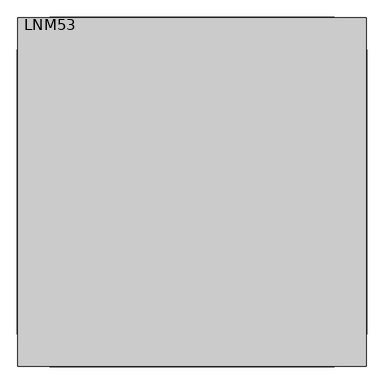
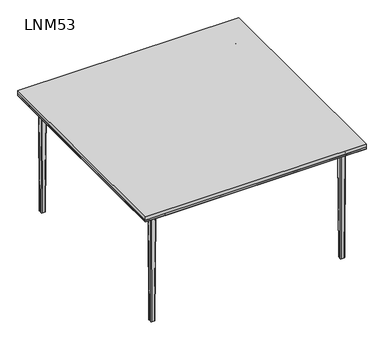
"""IFC4 building model written with IfcOpenShell, lengths in millimetres: furniture geometry, Contact Desks and Operative Twin Desks : LNM53."""

from ifc_helpers import new_model, si_unit, point, frame, origin, place, context, project, spatial, polyline, circle_curve, ellipse_curve, trimmed, outline, extrude, faceted_brep, source, transform, mapped, element, save
from ifc_brep_helpers import plane_surface, cylinder_surface, revolved_surface, extruded_surface, advanced_brep


def lnm53_39415d5a(model_context):
    return source(origin(), model_context, "Body", "SolidModel", [
        extrude(outline(polyline([(660.0, -540.0), (660.0, -660.0), (540.0, -660.0), (540.0, -540.0), (660.0, -540.0)])), frame((0.0, 0.0, 710.0), z_axis=(0.0, 0.0, 1.0), x_axis=(1.0, 0.0, 0.0)), (0.0, 0.0, 1.0), 10.0),
        extrude(outline(polyline([(660.0, 660.0), (660.0, 540.0), (540.0, 540.0), (540.0, 660.0), (660.0, 660.0)])), frame((0.0, 0.0, 710.0), z_axis=(0.0, 0.0, 1.0), x_axis=(1.0, 0.0, 0.0)), (0.0, 0.0, 1.0), 10.0),
        extrude(outline(polyline([(-540.0, 660.0), (-540.0, 540.0), (-660.0, 540.0), (-660.0, 660.0), (-540.0, 660.0)])), frame((0.0, 0.0, 710.0), z_axis=(0.0, 0.0, 1.0), x_axis=(1.0, 0.0, 0.0)), (0.0, 0.0, 1.0), 10.0),
        extrude(outline(polyline([(-660.0, 540.0), (-540.0, 540.0), (-540.0, -540.0), (-660.0, -540.0), (-660.0, 540.0)])), frame((0.0, 0.0, 710.0), z_axis=(0.0, 0.0, 1.0), x_axis=(1.0, 0.0, 0.0)), (0.0, 0.0, 1.0), 10.0),
        extrude(outline(polyline([(540.0, 540.0), (660.0, 540.0), (660.0, -540.0), (540.0, -540.0), (540.0, 540.0)])), frame((0.0, 0.0, 710.0), z_axis=(0.0, 0.0, 1.0), x_axis=(1.0, 0.0, 0.0)), (0.0, 0.0, 1.0), 10.0),
        extrude(outline(polyline([(540.0, -540.0), (540.0, -660.0), (-540.0, -660.0), (-540.0, -540.0), (540.0, -540.0)])), frame((0.0, 0.0, 710.0), z_axis=(0.0, 0.0, 1.0), x_axis=(1.0, 0.0, 0.0)), (0.0, 0.0, 1.0), 10.0),
        extrude(outline(polyline([(540.0, 660.0), (540.0, 540.0), (-540.0, 540.0), (-540.0, 660.0), (540.0, 660.0)])), frame((0.0, 0.0, 710.0), z_axis=(0.0, 0.0, 1.0), x_axis=(1.0, 0.0, 0.0)), (0.0, 0.0, 1.0), 10.0),
        extrude(outline(polyline([(710.0, 540.0), (675.0, 540.0), (675.0, 588.7129935), (710.0, 661.7129935), (710.0, 540.0)])), frame((0.0, -540.0, 0.0), z_axis=(0.0, 1.0, 0.0), x_axis=(0.0, 0.0, 1.0)), (0.0, 0.0, 1.0), 1080.0),
        extrude(outline(polyline([(710.0, -540.0), (710.0, -661.7129935), (675.0, -588.7129935), (675.0, -540.0), (710.0, -540.0)])), frame((0.0, -540.0, 0.0), z_axis=(0.0, 1.0, 0.0), x_axis=(0.0, 0.0, 1.0)), (0.0, 0.0, 1.0), 1080.0),
        extrude(outline(polyline([(540.0, 710.0), (661.7129935, 710.0), (588.7129935, 675.0), (540.0, 675.0), (540.0, 710.0)])), frame((-540.0, 0.0, 0.0), z_axis=(1.0, 0.0, 0.0), x_axis=(0.0, 1.0, 0.0)), (0.0, 0.0, 1.0), 1080.0),
        extrude(outline(polyline([(-540.0, 710.0), (-540.0, 675.0), (-588.7129935, 675.0), (-661.7129935, 710.0), (-540.0, 710.0)])), frame((-540.0, 0.0, 0.0), z_axis=(1.0, 0.0, 0.0), x_axis=(0.0, 1.0, 0.0)), (0.0, 0.0, 1.0), 1080.0),
        faceted_brep([(-540.0, 540.0, 710.0), (-540.0, 660.0, 710.0), (-660.0, 660.0, 710.0), (-660.0, 540.0, 710.0), (-540.0, 540.0, 675.0), (-587.0, 540.0, 675.0), (-587.0, 587.0, 675.0), (-540.0, 587.0, 675.0)], [[[0, 1, 2, 3]], [[4, 5, 6, 7]], [[1, 0, 4, 7]], [[0, 3, 5, 4]], [[6, 2, 1, 7]], [[2, 6, 5, 3]]]),
        advanced_brep(
        [(-547.0, 555.0, 675.0), (-547.0, 579.0, 675.0), (-555.0, 587.0, 675.0), (-579.0, 587.0, 675.0), (-587.0, 579.0, 675.0), (-587.0, 555.0, 675.0), (-579.0, 547.0, 675.0), (-555.0, 547.0, 675.0), (-579.0, 552.0, 665.0), (-582.0, 555.0, 665.0), (-582.0, 579.0, 665.0), (-579.0, 582.0, 665.0), (-555.0, 582.0, 665.0), (-552.0, 579.0, 665.0), (-552.0, 555.0, 665.0), (-555.0, 552.0, 665.0), (-547.0, 555.0, 672.0), (-547.0, 579.0, 672.0), (-555.0, 587.0, 672.0), (-579.0, 587.0, 672.0), (-587.0, 579.0, 672.0), (-587.0, 555.0, 672.0), (-579.0, 547.0, 672.0), (-555.0, 547.0, 672.0)],
        [
            (0, 1),
            (1, 2, circle_curve(frame((-555.0, 579.0, 675.0), z_axis=(0.0, 0.0, 1.0), x_axis=(0.0, -1.0000000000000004, 0.0)), 8.0)),
            (2, 3),
            (3, 4, circle_curve(frame((-579.0, 579.0, 675.0), z_axis=(0.0, 0.0, 1.0), x_axis=(0.0, -1.0000000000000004, 0.0)), 8.0)),
            (4, 5),
            (5, 6, circle_curve(frame((-579.0, 555.0, 675.0), z_axis=(0.0, 0.0, 1.0), x_axis=(0.0, -1.0000000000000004, 0.0)), 8.0)),
            (6, 7),
            (7, 0, circle_curve(frame((-555.0, 555.0, 675.0), z_axis=(0.0, 0.0, 1.0), x_axis=(0.0, -1.0000000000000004, 0.0)), 8.0)),
            (8, 9, circle_curve(frame((-579.0, 555.0, 665.0), z_axis=(0.0, 0.0, -1.0), x_axis=(0.0, -1.0000000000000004, 0.0)), 3.0)),
            (9, 10),
            (10, 11, circle_curve(frame((-579.0, 579.0, 665.0), z_axis=(0.0, 0.0, -1.0), x_axis=(-1.0000000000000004, 0.0, 0.0)), 3.0)),
            (11, 12),
            (12, 13, circle_curve(frame((-555.0, 579.0, 665.0), z_axis=(0.0, 0.0, -1.0), x_axis=(0.0, 1.0000000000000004, 0.0)), 3.0)),
            (13, 14),
            (14, 15, circle_curve(frame((-555.0, 555.0, 665.0), z_axis=(0.0, 0.0, -1.0), x_axis=(1.0000000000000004, 0.0, 0.0)), 3.0)),
            (15, 8),
            (0, 16),
            (16, 17),
            (17, 1),
            (17, 18, circle_curve(frame((-555.0, 579.0, 672.0), z_axis=(0.0, 0.0, 1.0), x_axis=(0.0, -1.0000000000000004, 0.0)), 8.0)),
            (18, 2),
            (18, 19),
            (19, 3),
            (19, 20, circle_curve(frame((-579.0, 579.0, 672.0), z_axis=(0.0, 0.0, 1.0), x_axis=(0.0, -1.0000000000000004, 0.0)), 8.0)),
            (20, 4),
            (20, 21),
            (21, 5),
            (21, 22, circle_curve(frame((-579.0, 555.0, 672.0), z_axis=(0.0, 0.0, 1.0), x_axis=(0.0, -1.0000000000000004, 0.0)), 8.0)),
            (22, 6),
            (22, 23),
            (23, 7),
            (23, 16, circle_curve(frame((-555.0, 555.0, 672.0), z_axis=(0.0, 0.0, 1.0), x_axis=(0.0, -1.0000000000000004, 0.0)), 8.0)),
            (21, 9, circle_curve(frame((-590.9600528, 555.0, 663.8856766), z_axis=(0.0, 1.0000000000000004, 0.0), x_axis=(-1.0000000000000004, 0.0, 0.0)), 9.0290787)),
            (8, 22, circle_curve(frame((-579.0, 543.0399472, 663.8856766), z_axis=(1.0000000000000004, 0.0, 0.0), x_axis=(0.0, -1.0000000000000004, 0.0)), 9.0290787)),
            (20, 10, circle_curve(frame((-590.9600528, 579.0, 663.8856766), z_axis=(0.0, 1.0, 0.0), x_axis=(-1.0000000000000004, 0.0, 0.0)), 9.0290787)),
            (19, 11, circle_curve(frame((-579.0, 590.9600528, 663.8856766), z_axis=(1.0000000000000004, 0.0, 0.0), x_axis=(0.0, 1.0000000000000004, 0.0)), 9.0290787)),
            (18, 12, circle_curve(frame((-555.0, 590.9600528, 663.8856766), z_axis=(1.0, 0.0, 0.0), x_axis=(0.0, 1.0000000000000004, 0.0)), 9.0290787)),
            (17, 13, circle_curve(frame((-543.0399472, 579.0, 663.8856766), z_axis=(0.0, -1.0000000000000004, 0.0), x_axis=(1.0000000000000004, 0.0, 0.0)), 9.0290787)),
            (16, 14, circle_curve(frame((-543.0399472, 555.0, 663.8856766), z_axis=(0.0, -1.0, 0.0), x_axis=(1.0000000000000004, 0.0, 0.0)), 9.0290787)),
            (23, 15, circle_curve(frame((-555.0, 543.0399472, 663.8856766), z_axis=(-1.0000000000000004, 0.0, 0.0), x_axis=(0.0, -1.0000000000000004, 0.0)), 9.0290787)),
        ],
        [
            plane_surface(frame((-547.0, 1240.663284, 675.0), z_axis=(0.0, 0.0, 1.0), x_axis=(0.0, 1.0, 0.0))),
            plane_surface(frame((-547.0, 1240.663284, 665.0), z_axis=(0.0, 0.0, -1.0), x_axis=(0.0, -1.0, 0.0))),
            plane_surface(frame((-547.0, 555.0, 675.0), z_axis=(1.0, 0.0, 0.0), x_axis=(0.0, 0.0, -1.0))),
            cylinder_surface(frame((-555.0, 579.0, 665.0), z_axis=(0.0, 0.0, 1.0), x_axis=(0.0, -1.0000000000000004, 0.0)), 8.0),
            plane_surface(frame((-555.0, 587.0, 675.0), z_axis=(0.0, 1.0, 0.0), x_axis=(0.0, 0.0, -1.0))),
            cylinder_surface(frame((-579.0, 579.0, 665.0), z_axis=(0.0, 0.0, 1.0), x_axis=(0.0, -1.0000000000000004, 0.0)), 8.0),
            plane_surface(frame((-587.0, 579.0, 675.0), z_axis=(-1.0, 0.0, 0.0), x_axis=(0.0, 0.0, -1.0))),
            cylinder_surface(frame((-579.0, 555.0, 665.0), z_axis=(0.0, 0.0, 1.0), x_axis=(0.0, -1.0000000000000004, 0.0)), 8.0),
            plane_surface(frame((-579.0, 547.0, 675.0), z_axis=(0.0, -1.0, 0.0), x_axis=(0.0, 0.0, -1.0))),
            cylinder_surface(frame((-555.0, 555.0, 665.0), z_axis=(0.0, 0.0, 1.0), x_axis=(0.0, -1.0000000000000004, 0.0)), 8.0),
            revolved_surface(trimmed(ellipse_curve(frame((-579.0, 543.0399472, 663.8856766), z_axis=(-1.0000000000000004, 0.0, 0.0), x_axis=(0.0, -1.0000000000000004, 0.0)), 9.0290787, 9.0290787), [point((-579.0, 547.0, 672.0))], [point((-579.0, 552.0, 665.0))], True, "CARTESIAN"), (-579.0, 555.0, 0.0), (0.0, 0.0, -1.0)),
            revolved_surface(polyline([(-599.9891315, 555.0, 663.8856766), (-599.9891315, 579.0, 663.8856766)]), (-590.9600528, 555.0, 663.8856766), (0.0, -1.0000000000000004, 0.0)),
            revolved_surface(trimmed(ellipse_curve(frame((-590.9600528, 579.0, 663.8856766), z_axis=(0.0, 1.0000000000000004, 0.0), x_axis=(-1.0000000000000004, 0.0, 0.0)), 9.0290787, 9.0290787), [point((-587.0, 579.0, 672.0))], [point((-582.0, 579.0, 665.0))], True, "CARTESIAN"), (-579.0, 579.0, 0.0), (0.0, 0.0, -1.0)),
            revolved_surface(polyline([(-579.0, 599.9891315, 663.8856766), (-555.0, 599.9891315, 663.8856766)]), (-579.0, 590.9600528, 663.8856766), (-1.0000000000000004, 0.0, 0.0)),
            revolved_surface(trimmed(ellipse_curve(frame((-555.0, 590.9600528, 663.8856766), z_axis=(1.0000000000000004, 0.0, 0.0), x_axis=(0.0, 1.0000000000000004, 0.0)), 9.0290787, 9.0290787), [point((-555.0, 587.0, 672.0))], [point((-555.0, 582.0, 665.0))], True, "CARTESIAN"), (-555.0, 579.0, 0.0), (0.0, 0.0, -1.0)),
            revolved_surface(polyline([(-534.0108685, 579.0, 663.8856766), (-534.0108685, 555.0, 663.8856766)]), (-543.0399472, 579.0, 663.8856766), (0.0, 1.0000000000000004, 0.0)),
            revolved_surface(trimmed(ellipse_curve(frame((-543.0399472, 555.0, 663.8856766), z_axis=(0.0, -1.0000000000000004, 0.0), x_axis=(1.0000000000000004, 0.0, 0.0)), 9.0290787, 9.0290787), [point((-547.0, 555.0, 672.0))], [point((-552.0, 555.0, 665.0))], True, "CARTESIAN"), (-555.0, 555.0, 0.0), (0.0, 0.0, -1.0)),
            revolved_surface(polyline([(-555.0, 534.0108685, 663.8856766), (-579.0, 534.0108685, 663.8856766)]), (-555.0, 543.0399472, 663.8856766), (1.0000000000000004, 0.0, 0.0)),
        ],
        [
            (0, [[1, 2, 3, 4, 5, 6, 7, 8]]),
            (1, [[9, 10, 11, 12, 13, 14, 15, 16]]),
            (2, [[-1, 17, 18, 19]]),
            (3, [[-2, -19, 20, 21]]),
            (4, [[-3, -21, 22, 23]]),
            (5, [[-4, -23, 24, 25]]),
            (6, [[-5, -25, 26, 27]]),
            (7, [[-6, -27, 28, 29]]),
            (8, [[-7, -29, 30, 31]]),
            (9, [[-8, -31, 32, -17]]),
            (10, [[33, -9, 34, -28]]),
            (11, [[-33, -26, 35, -10]]),
            (12, [[-35, -24, 36, -11]]),
            (13, [[-36, -22, 37, -12]]),
            (14, [[-37, -20, 38, -13]]),
            (15, [[-38, -18, 39, -14]]),
            (16, [[-39, -32, 40, -15]]),
            (17, [[-34, -16, -40, -30]]),
        ],
    ),
        advanced_brep(
        [(-579.0, 582.0, 665.0), (-582.0, 579.0, 665.0), (-582.0, 555.0, 665.0), (-579.0, 552.0, 665.0), (-555.0, 552.0, 665.0), (-552.0, 555.0, 665.0), (-552.0, 579.0, 665.0), (-555.0, 582.0, 665.0), (-576.0, 579.0, 0.0), (-558.0, 579.0, 0.0), (-555.0, 576.0, 0.0), (-555.0, 558.0, 0.0), (-558.0, 555.0, 0.0), (-576.0, 555.0, 0.0), (-579.0, 558.0, 0.0), (-579.0, 576.0, 0.0)],
        [
            (0, 1, circle_curve(frame((-579.0, 579.0, 665.0), z_axis=(0.0, 0.0, 1.0), x_axis=(0.0, -1.0, 0.0)), 3.0)),
            (1, 2),
            (2, 3, circle_curve(frame((-579.0, 555.0, 665.0), z_axis=(0.0, 0.0, 1.0), x_axis=(0.0, -1.0, 0.0)), 3.0)),
            (3, 4),
            (4, 5, circle_curve(frame((-555.0, 555.0, 665.0), z_axis=(0.0, 0.0, 1.0), x_axis=(0.0, -1.0, 0.0)), 3.0)),
            (5, 6),
            (6, 7, circle_curve(frame((-555.0, 579.0, 665.0), z_axis=(0.0, 0.0, 1.0), x_axis=(0.0, -1.0, 0.0)), 3.0)),
            (7, 0),
            (8, 9),
            (9, 10, circle_curve(frame((-558.0, 576.0, 0.0), z_axis=(0.0, 0.0, -1.0), x_axis=(0.0, -1.0, 0.0)), 3.0)),
            (10, 11),
            (11, 12, circle_curve(frame((-558.0, 558.0, 0.0), z_axis=(0.0, 0.0, -1.0), x_axis=(0.0, -1.0, 0.0)), 3.0)),
            (12, 13),
            (13, 14, circle_curve(frame((-576.0, 558.0, 0.0), z_axis=(0.0, 0.0, -1.0), x_axis=(0.0, -1.0, 0.0)), 3.0)),
            (14, 15),
            (15, 8, circle_curve(frame((-576.0, 576.0, 0.0), z_axis=(0.0, 0.0, -1.0), x_axis=(0.0, -1.0, 0.0)), 3.0)),
            (15, 1),
            (0, 8),
            (14, 2),
            (13, 3),
            (12, 4),
            (11, 5),
            (10, 6),
            (9, 7),
        ],
        [
            plane_surface(frame((-567.0, 567.0, 665.0), z_axis=(0.0, 0.0, 1.0), x_axis=(0.0, 1.0, 0.0))),
            plane_surface(frame((-567.0, 567.0, 0.0), z_axis=(0.0, 0.0, -1.0), x_axis=(0.0, 1.0, 0.0))),
            extruded_surface(trimmed(circle_curve(frame((-576.0, 576.0, 0.0), z_axis=(0.0, 0.0, 1.0), x_axis=(0.0, -1.0, 0.0)), 3.0), [point((-576.0, 579.0, 0.0))], [point((-579.0, 576.0, 0.0))], True, "CARTESIAN"), (-3.0, 3.0, 665.0), 665.0135336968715),
            plane_surface(frame((-579.0, 567.0, 0.0), z_axis=(-0.9999898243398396, 0.0, -0.004511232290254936), x_axis=(0.0, -1.0, 0.0))),
            extruded_surface(trimmed(circle_curve(frame((-576.0, 558.0, 0.0), z_axis=(0.0, 0.0, 1.0), x_axis=(0.0, -1.0, 0.0)), 3.0), [point((-579.0, 558.0, 0.0))], [point((-576.0, 555.0, 0.0))], True, "CARTESIAN"), (-3.0, -3.0, 665.0), 665.0135336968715),
            plane_surface(frame((-567.0, 555.0, 0.0), z_axis=(0.0, -0.9999898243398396, -0.004511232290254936), x_axis=(1.0, 0.0, 0.0))),
            extruded_surface(trimmed(circle_curve(frame((-558.0, 558.0, 0.0), z_axis=(0.0, 0.0, 1.0), x_axis=(0.0, -1.0, 0.0)), 3.0), [point((-558.0, 555.0, 0.0))], [point((-555.0, 558.0, 0.0))], True, "CARTESIAN"), (3.0, -3.0, 665.0), 665.0135336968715),
            plane_surface(frame((-555.0, 567.0, 0.0), z_axis=(0.9999898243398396, 0.0, -0.004511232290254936), x_axis=(0.0, 1.0, 0.0))),
            extruded_surface(trimmed(circle_curve(frame((-558.0, 576.0, 0.0), z_axis=(0.0, 0.0, 1.0), x_axis=(0.0, -1.0, 0.0)), 3.0), [point((-555.0, 576.0, 0.0))], [point((-558.0, 579.0, 0.0))], True, "CARTESIAN"), (3.0, 3.0, 665.0), 665.0135336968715),
            plane_surface(frame((-567.0, 579.0, 0.0), z_axis=(0.0, 0.9999898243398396, -0.004511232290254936), x_axis=(-1.0, 0.0, 0.0))),
        ],
        [
            (0, [[1, 2, 3, 4, 5, 6, 7, 8]]),
            (1, [[9, 10, 11, 12, 13, 14, 15, 16]]),
            (2, [[-16, 17, -1, 18]]),
            (3, [[-15, 19, -2, -17]]),
            (4, [[-14, 20, -3, -19]]),
            (5, [[-13, 21, -4, -20]]),
            (6, [[-12, 22, -5, -21]]),
            (7, [[-11, 23, -6, -22]]),
            (8, [[-10, 24, -7, -23]]),
            (9, [[-9, -18, -8, -24]]),
        ],
    ),
        faceted_brep([(540.0, -540.0, 710.0), (540.0, -660.0, 710.0), (660.0, -660.0, 710.0), (660.0, -540.0, 710.0), (540.0, -540.0, 675.0), (587.0, -540.0, 675.0), (587.0, -587.0, 675.0), (540.0, -587.0, 675.0)], [[[0, 1, 2, 3]], [[4, 5, 6, 7]], [[1, 0, 4, 7]], [[0, 3, 5, 4]], [[6, 2, 1, 7]], [[2, 6, 5, 3]]]),
        advanced_brep(
        [(547.0, -555.0, 675.0), (547.0, -579.0, 675.0), (555.0, -587.0, 675.0), (579.0, -587.0, 675.0), (587.0, -579.0, 675.0), (587.0, -555.0, 675.0), (579.0, -547.0, 675.0), (555.0, -547.0, 675.0), (579.0, -552.0, 665.0), (582.0, -555.0, 665.0), (582.0, -579.0, 665.0), (579.0, -582.0, 665.0), (555.0, -582.0, 665.0), (552.0, -579.0, 665.0), (552.0, -555.0, 665.0), (555.0, -552.0, 665.0), (547.0, -555.0, 672.0), (547.0, -579.0, 672.0), (555.0, -587.0, 672.0), (579.0, -587.0, 672.0), (587.0, -579.0, 672.0), (587.0, -555.0, 672.0), (579.0, -547.0, 672.0), (555.0, -547.0, 672.0)],
        [
            (0, 1),
            (1, 2, circle_curve(frame((555.0, -579.0, 675.0), z_axis=(0.0, 0.0, 1.0), x_axis=(0.0, 1.0000000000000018, 0.0)), 8.0)),
            (2, 3),
            (3, 4, circle_curve(frame((579.0, -579.0, 675.0), z_axis=(0.0, 0.0, 1.0), x_axis=(0.0, 1.0000000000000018, 0.0)), 8.0)),
            (4, 5),
            (5, 6, circle_curve(frame((579.0, -555.0, 675.0), z_axis=(0.0, 0.0, 1.0), x_axis=(0.0, 1.0000000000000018, 0.0)), 8.0)),
            (6, 7),
            (7, 0, circle_curve(frame((555.0, -555.0, 675.0), z_axis=(0.0, 0.0, 1.0), x_axis=(0.0, 1.0000000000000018, 0.0)), 8.0)),
            (8, 9, circle_curve(frame((579.0, -555.0, 665.0), z_axis=(0.0, 0.0, -1.0), x_axis=(0.0, 1.0000000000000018, 0.0)), 3.0)),
            (9, 10),
            (10, 11, circle_curve(frame((579.0, -579.0, 665.0), z_axis=(0.0, 0.0, -1.0), x_axis=(1.0000000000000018, 0.0, 0.0)), 3.0)),
            (11, 12),
            (12, 13, circle_curve(frame((555.0, -579.0, 665.0), z_axis=(0.0, 0.0, -1.0), x_axis=(0.0, -1.0000000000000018, 0.0)), 3.0)),
            (13, 14),
            (14, 15, circle_curve(frame((555.0, -555.0, 665.0), z_axis=(0.0, 0.0, -1.0), x_axis=(-1.0000000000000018, 0.0, 0.0)), 3.0)),
            (15, 8),
            (0, 16),
            (16, 17),
            (17, 1),
            (17, 18, circle_curve(frame((555.0, -579.0, 672.0), z_axis=(0.0, 0.0, 1.0), x_axis=(0.0, 1.0000000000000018, 0.0)), 8.0)),
            (18, 2),
            (18, 19),
            (19, 3),
            (19, 20, circle_curve(frame((579.0, -579.0, 672.0), z_axis=(0.0, 0.0, 1.0), x_axis=(0.0, 1.0000000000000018, 0.0)), 8.0)),
            (20, 4),
            (20, 21),
            (21, 5),
            (21, 22, circle_curve(frame((579.0, -555.0, 672.0), z_axis=(0.0, 0.0, 1.0), x_axis=(0.0, 1.0000000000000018, 0.0)), 8.0)),
            (22, 6),
            (22, 23),
            (23, 7),
            (23, 16, circle_curve(frame((555.0, -555.0, 672.0), z_axis=(0.0, 0.0, 1.0), x_axis=(0.0, 1.0000000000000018, 0.0)), 8.0)),
            (21, 9, circle_curve(frame((590.9600528, -555.0, 663.8856766), z_axis=(0.0, -1.0000000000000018, 0.0), x_axis=(1.0000000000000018, 0.0, 0.0)), 9.0290787)),
            (8, 22, circle_curve(frame((579.0, -543.0399472, 663.8856766), z_axis=(-1.0000000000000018, 0.0, 0.0), x_axis=(0.0, 1.0000000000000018, 0.0)), 9.0290787)),
            (20, 10, circle_curve(frame((590.9600528, -579.0, 663.8856766), z_axis=(0.0, -1.0, 0.0), x_axis=(1.0000000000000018, 0.0, 0.0)), 9.0290787)),
            (19, 11, circle_curve(frame((579.0, -590.9600528, 663.8856766), z_axis=(-1.0000000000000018, 0.0, 0.0), x_axis=(0.0, -1.0000000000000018, 0.0)), 9.0290787)),
            (18, 12, circle_curve(frame((555.0, -590.9600528, 663.8856766), z_axis=(-1.0, 0.0, 0.0), x_axis=(0.0, -1.0000000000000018, 0.0)), 9.0290787)),
            (17, 13, circle_curve(frame((543.0399472, -579.0, 663.8856766), z_axis=(0.0, 1.0000000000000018, 0.0), x_axis=(-1.0000000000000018, 0.0, 0.0)), 9.0290787)),
            (16, 14, circle_curve(frame((543.0399472, -555.0, 663.8856766), z_axis=(0.0, 1.0, 0.0), x_axis=(-1.0000000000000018, 0.0, 0.0)), 9.0290787)),
            (23, 15, circle_curve(frame((555.0, -543.0399472, 663.8856766), z_axis=(1.0000000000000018, 0.0, 0.0), x_axis=(0.0, 1.0000000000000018, 0.0)), 9.0290787)),
        ],
        [
            plane_surface(frame((547.0, -1240.663284, 675.0), z_axis=(0.0, 0.0, 1.0), x_axis=(0.0, -1.0, 0.0))),
            plane_surface(frame((547.0, -1240.663284, 665.0), z_axis=(0.0, 0.0, -1.0), x_axis=(0.0, 1.0, 0.0))),
            plane_surface(frame((547.0, -555.0, 675.0), z_axis=(-1.0, 0.0, 0.0), x_axis=(0.0, 0.0, -1.0))),
            cylinder_surface(frame((555.0, -579.0, 665.0), z_axis=(0.0, 0.0, 1.0), x_axis=(0.0, 1.0000000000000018, 0.0)), 8.0),
            plane_surface(frame((555.0, -587.0, 675.0), z_axis=(0.0, -1.0, 0.0), x_axis=(0.0, 0.0, -1.0))),
            cylinder_surface(frame((579.0, -579.0, 665.0), z_axis=(0.0, 0.0, 1.0), x_axis=(0.0, 1.0000000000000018, 0.0)), 8.0),
            plane_surface(frame((587.0, -579.0, 675.0), z_axis=(1.0, 0.0, 0.0), x_axis=(0.0, 0.0, -1.0))),
            cylinder_surface(frame((579.0, -555.0, 665.0), z_axis=(0.0, 0.0, 1.0), x_axis=(0.0, 1.0000000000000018, 0.0)), 8.0),
            plane_surface(frame((579.0, -547.0, 675.0), z_axis=(0.0, 1.0, 0.0), x_axis=(0.0, 0.0, -1.0))),
            cylinder_surface(frame((555.0, -555.0, 665.0), z_axis=(0.0, 0.0, 1.0), x_axis=(0.0, 1.0000000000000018, 0.0)), 8.0),
            revolved_surface(trimmed(ellipse_curve(frame((579.0, -543.0399472, 663.8856766), z_axis=(1.0000000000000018, 0.0, 0.0), x_axis=(0.0, 1.0000000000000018, 0.0)), 9.0290787, 9.0290787), [point((579.0, -547.0, 672.0))], [point((579.0, -552.0, 665.0))], True, "CARTESIAN"), (579.0, -555.0, 0.0), (0.0, 0.0, -1.0)),
            revolved_surface(polyline([(599.9891315, -555.0, 663.8856766), (599.9891315, -579.0000000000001, 663.8856766)]), (590.9600528, -555.0, 663.8856766), (0.0, 1.0000000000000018, 0.0)),
            revolved_surface(trimmed(ellipse_curve(frame((590.9600528, -579.0, 663.8856766), z_axis=(0.0, -1.0000000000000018, 0.0), x_axis=(1.0000000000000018, 0.0, 0.0)), 9.0290787, 9.0290787), [point((587.0, -579.0, 672.0))], [point((582.0, -579.0, 665.0))], True, "CARTESIAN"), (579.0, -579.0, 0.0), (0.0, 0.0, -1.0)),
            revolved_surface(polyline([(579.0, -599.9891315, 663.8856766), (554.9999999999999, -599.9891315, 663.8856766)]), (579.0, -590.9600528, 663.8856766), (1.0000000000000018, 0.0, 0.0)),
            revolved_surface(trimmed(ellipse_curve(frame((555.0, -590.9600528, 663.8856766), z_axis=(-1.0000000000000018, 0.0, 0.0), x_axis=(0.0, -1.0000000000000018, 0.0)), 9.0290787, 9.0290787), [point((555.0, -587.0, 672.0))], [point((555.0, -582.0, 665.0))], True, "CARTESIAN"), (555.0, -579.0, 0.0), (0.0, 0.0, -1.0)),
            revolved_surface(polyline([(534.0108685, -579.0, 663.8856766), (534.0108685, -554.9999999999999, 663.8856766)]), (543.0399472, -579.0, 663.8856766), (0.0, -1.0000000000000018, 0.0)),
            revolved_surface(trimmed(ellipse_curve(frame((543.0399472, -555.0, 663.8856766), z_axis=(0.0, 1.0000000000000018, 0.0), x_axis=(-1.0000000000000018, 0.0, 0.0)), 9.0290787, 9.0290787), [point((547.0, -555.0, 672.0))], [point((552.0, -555.0, 665.0))], True, "CARTESIAN"), (555.0, -555.0, 0.0), (0.0, 0.0, -1.0)),
            revolved_surface(polyline([(555.0, -534.0108685, 663.8856766), (579.0000000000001, -534.0108685, 663.8856766)]), (555.0, -543.0399472, 663.8856766), (-1.0000000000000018, 0.0, 0.0)),
        ],
        [
            (0, [[1, 2, 3, 4, 5, 6, 7, 8]]),
            (1, [[9, 10, 11, 12, 13, 14, 15, 16]]),
            (2, [[-1, 17, 18, 19]]),
            (3, [[-2, -19, 20, 21]]),
            (4, [[-3, -21, 22, 23]]),
            (5, [[-4, -23, 24, 25]]),
            (6, [[-5, -25, 26, 27]]),
            (7, [[-6, -27, 28, 29]]),
            (8, [[-7, -29, 30, 31]]),
            (9, [[-8, -31, 32, -17]]),
            (10, [[33, -9, 34, -28]]),
            (11, [[-33, -26, 35, -10]]),
            (12, [[-35, -24, 36, -11]]),
            (13, [[-36, -22, 37, -12]]),
            (14, [[-37, -20, 38, -13]]),
            (15, [[-38, -18, 39, -14]]),
            (16, [[-39, -32, 40, -15]]),
            (17, [[-34, -16, -40, -30]]),
        ],
    ),
        advanced_brep(
        [(579.0, -582.0, 665.0), (582.0, -579.0, 665.0), (582.0, -555.0, 665.0), (579.0, -552.0, 665.0), (555.0, -552.0, 665.0), (552.0, -555.0, 665.0), (552.0, -579.0, 665.0), (555.0, -582.0, 665.0), (576.0, -579.0, 0.0), (558.0, -579.0, 0.0), (555.0, -576.0, 0.0), (555.0, -558.0, 0.0), (558.0, -555.0, 0.0), (576.0, -555.0, 0.0), (579.0, -558.0, 0.0), (579.0, -576.0, 0.0)],
        [
            (0, 1, circle_curve(frame((579.0, -579.0, 665.0), z_axis=(0.0, 0.0, 1.0), x_axis=(0.0, 1.0, 0.0)), 3.0)),
            (1, 2),
            (2, 3, circle_curve(frame((579.0, -555.0, 665.0), z_axis=(0.0, 0.0, 1.0), x_axis=(0.0, 1.0, 0.0)), 3.0)),
            (3, 4),
            (4, 5, circle_curve(frame((555.0, -555.0, 665.0), z_axis=(0.0, 0.0, 1.0), x_axis=(0.0, 1.0, 0.0)), 3.0)),
            (5, 6),
            (6, 7, circle_curve(frame((555.0, -579.0, 665.0), z_axis=(0.0, 0.0, 1.0), x_axis=(0.0, 1.0, 0.0)), 3.0)),
            (7, 0),
            (8, 9),
            (9, 10, circle_curve(frame((558.0, -576.0, 0.0), z_axis=(0.0, 0.0, -1.0), x_axis=(0.0, 1.0, 0.0)), 3.0)),
            (10, 11),
            (11, 12, circle_curve(frame((558.0, -558.0, 0.0), z_axis=(0.0, 0.0, -1.0), x_axis=(0.0, 1.0, 0.0)), 3.0)),
            (12, 13),
            (13, 14, circle_curve(frame((576.0, -558.0, 0.0), z_axis=(0.0, 0.0, -1.0), x_axis=(0.0, 1.0, 0.0)), 3.0)),
            (14, 15),
            (15, 8, circle_curve(frame((576.0, -576.0, 0.0), z_axis=(0.0, 0.0, -1.0), x_axis=(0.0, 1.0, 0.0)), 3.0)),
            (15, 1),
            (0, 8),
            (14, 2),
            (13, 3),
            (12, 4),
            (11, 5),
            (10, 6),
            (9, 7),
        ],
        [
            plane_surface(frame((567.0, -567.0, 665.0), z_axis=(0.0, 0.0, 1.0), x_axis=(0.0, -1.0, 0.0))),
            plane_surface(frame((567.0, -567.0, 0.0), z_axis=(0.0, 0.0, -1.0), x_axis=(0.0, -1.0, 0.0))),
            extruded_surface(trimmed(circle_curve(frame((576.0, -576.0, 0.0), z_axis=(0.0, 0.0, 1.0), x_axis=(0.0, 1.0, 0.0)), 3.0), [point((576.0, -579.0, 0.0))], [point((579.0, -576.0, 0.0))], True, "CARTESIAN"), (3.0, -3.0, 665.0), 665.0135336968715),
            plane_surface(frame((579.0, -567.0, 0.0), z_axis=(0.9999898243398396, 0.0, -0.004511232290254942), x_axis=(0.0, 1.0, 0.0))),
            extruded_surface(trimmed(circle_curve(frame((576.0, -558.0, 0.0), z_axis=(0.0, 0.0, 1.0), x_axis=(0.0, 1.0, 0.0)), 3.0), [point((579.0, -558.0, 0.0))], [point((576.0, -555.0, 0.0))], True, "CARTESIAN"), (3.0, 3.0, 665.0), 665.0135336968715),
            plane_surface(frame((567.0, -555.0, 0.0), z_axis=(0.0, 0.9999898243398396, -0.004511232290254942), x_axis=(-1.0, 0.0, 0.0))),
            extruded_surface(trimmed(circle_curve(frame((558.0, -558.0, 0.0), z_axis=(0.0, 0.0, 1.0), x_axis=(0.0, 1.0, 0.0)), 3.0), [point((558.0, -555.0, 0.0))], [point((555.0, -558.0, 0.0))], True, "CARTESIAN"), (-3.0, 3.0, 665.0), 665.0135336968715),
            plane_surface(frame((555.0, -567.0, 0.0), z_axis=(-0.9999898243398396, 0.0, -0.004511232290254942), x_axis=(0.0, -1.0, 0.0))),
            extruded_surface(trimmed(circle_curve(frame((558.0, -576.0, 0.0), z_axis=(0.0, 0.0, 1.0), x_axis=(0.0, 1.0, 0.0)), 3.0), [point((555.0, -576.0, 0.0))], [point((558.0, -579.0, 0.0))], True, "CARTESIAN"), (-3.0, -3.0, 665.0), 665.0135336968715),
            plane_surface(frame((567.0, -579.0, 0.0), z_axis=(0.0, -0.9999898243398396, -0.004511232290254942), x_axis=(1.0, 0.0, 0.0))),
        ],
        [
            (0, [[1, 2, 3, 4, 5, 6, 7, 8]]),
            (1, [[9, 10, 11, 12, 13, 14, 15, 16]]),
            (2, [[-16, 17, -1, 18]]),
            (3, [[-15, 19, -2, -17]]),
            (4, [[-14, 20, -3, -19]]),
            (5, [[-13, 21, -4, -20]]),
            (6, [[-12, 22, -5, -21]]),
            (7, [[-11, 23, -6, -22]]),
            (8, [[-10, 24, -7, -23]]),
            (9, [[-9, -18, -8, -24]]),
        ],
    ),
        faceted_brep([(540.0, 540.0, 710.0), (660.0, 540.0, 710.0), (660.0, 660.0, 710.0), (540.0, 660.0, 710.0), (540.0, 540.0, 675.0), (540.0, 587.0, 675.0), (587.0, 587.0, 675.0), (587.0, 540.0, 675.0)], [[[0, 1, 2, 3]], [[4, 5, 6, 7]], [[1, 0, 4, 7]], [[0, 3, 5, 4]], [[6, 2, 1, 7]], [[2, 6, 5, 3]]]),
        advanced_brep(
        [(555.0, 547.0, 675.0), (579.0, 547.0, 675.0), (587.0, 555.0, 675.0), (587.0, 579.0, 675.0), (579.0, 587.0, 675.0), (555.0, 587.0, 675.0), (547.0, 579.0, 675.0), (547.0, 555.0, 675.0), (552.0, 579.0, 665.0), (555.0, 582.0, 665.0), (579.0, 582.0, 665.0), (582.0, 579.0, 665.0), (582.0, 555.0, 665.0), (579.0, 552.0, 665.0), (555.0, 552.0, 665.0), (552.0, 555.0, 665.0), (555.0, 547.0, 672.0), (579.0, 547.0, 672.0), (587.0, 555.0, 672.0), (587.0, 579.0, 672.0), (579.0, 587.0, 672.0), (555.0, 587.0, 672.0), (547.0, 579.0, 672.0), (547.0, 555.0, 672.0)],
        [
            (0, 1),
            (1, 2, circle_curve(frame((579.0, 555.0, 675.0), z_axis=(0.0, 0.0, 1.0), x_axis=(-1.0000000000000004, 0.0, 0.0)), 8.0)),
            (2, 3),
            (3, 4, circle_curve(frame((579.0, 579.0, 675.0), z_axis=(0.0, 0.0, 1.0), x_axis=(-1.0000000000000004, 0.0, 0.0)), 8.0)),
            (4, 5),
            (5, 6, circle_curve(frame((555.0, 579.0, 675.0), z_axis=(0.0, 0.0, 1.0), x_axis=(-1.0000000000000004, 0.0, 0.0)), 8.0)),
            (6, 7),
            (7, 0, circle_curve(frame((555.0, 555.0, 675.0), z_axis=(0.0, 0.0, 1.0), x_axis=(-1.0000000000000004, 0.0, 0.0)), 8.0)),
            (8, 9, circle_curve(frame((555.0, 579.0, 665.0), z_axis=(0.0, 0.0, -1.0), x_axis=(-1.0000000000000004, 0.0, 0.0)), 3.0)),
            (9, 10),
            (10, 11, circle_curve(frame((579.0, 579.0, 665.0), z_axis=(0.0, 0.0, -1.0), x_axis=(0.0, 1.0000000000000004, 0.0)), 3.0)),
            (11, 12),
            (12, 13, circle_curve(frame((579.0, 555.0, 665.0), z_axis=(0.0, 0.0, -1.0), x_axis=(1.0000000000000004, 0.0, 0.0)), 3.0)),
            (13, 14),
            (14, 15, circle_curve(frame((555.0, 555.0, 665.0), z_axis=(0.0, 0.0, -1.0), x_axis=(0.0, -1.0000000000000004, 0.0)), 3.0)),
            (15, 8),
            (0, 16),
            (16, 17),
            (17, 1),
            (17, 18, circle_curve(frame((579.0, 555.0, 672.0), z_axis=(0.0, 0.0, 1.0), x_axis=(-1.0000000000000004, 0.0, 0.0)), 8.0)),
            (18, 2),
            (18, 19),
            (19, 3),
            (19, 20, circle_curve(frame((579.0, 579.0, 672.0), z_axis=(0.0, 0.0, 1.0), x_axis=(-1.0000000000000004, 0.0, 0.0)), 8.0)),
            (20, 4),
            (20, 21),
            (21, 5),
            (21, 22, circle_curve(frame((555.0, 579.0, 672.0), z_axis=(0.0, 0.0, 1.0), x_axis=(-1.0000000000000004, 0.0, 0.0)), 8.0)),
            (22, 6),
            (22, 23),
            (23, 7),
            (23, 16, circle_curve(frame((555.0, 555.0, 672.0), z_axis=(0.0, 0.0, 1.0), x_axis=(-1.0000000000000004, 0.0, 0.0)), 8.0)),
            (21, 9, circle_curve(frame((555.0, 590.9600528, 663.8856766), z_axis=(1.0000000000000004, 0.0, 0.0), x_axis=(0.0, 1.0000000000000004, 0.0)), 9.0290787)),
            (8, 22, circle_curve(frame((543.0399472, 579.0, 663.8856766), z_axis=(0.0, -1.0000000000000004, 0.0), x_axis=(-1.0000000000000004, 0.0, 0.0)), 9.0290787)),
            (20, 10, circle_curve(frame((579.0, 590.9600528, 663.8856766), z_axis=(1.0, 0.0, 0.0), x_axis=(0.0, 1.0000000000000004, 0.0)), 9.0290787)),
            (19, 11, circle_curve(frame((590.9600528, 579.0, 663.8856766), z_axis=(0.0, -1.0000000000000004, 0.0), x_axis=(1.0000000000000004, 0.0, 0.0)), 9.0290787)),
            (18, 12, circle_curve(frame((590.9600528, 555.0, 663.8856766), z_axis=(0.0, -1.0, 0.0), x_axis=(1.0000000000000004, 0.0, 0.0)), 9.0290787)),
            (17, 13, circle_curve(frame((579.0, 543.0399472, 663.8856766), z_axis=(-1.0000000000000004, 0.0, 0.0), x_axis=(0.0, -1.0000000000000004, 0.0)), 9.0290787)),
            (16, 14, circle_curve(frame((555.0, 543.0399472, 663.8856766), z_axis=(-1.0, 0.0, 0.0), x_axis=(0.0, -1.0000000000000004, 0.0)), 9.0290787)),
            (23, 15, circle_curve(frame((543.0399472, 555.0, 663.8856766), z_axis=(0.0, 1.0000000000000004, 0.0), x_axis=(-1.0000000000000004, 0.0, 0.0)), 9.0290787)),
        ],
        [
            plane_surface(frame((1240.663284, 547.0, 675.0), z_axis=(0.0, 0.0, 1.0), x_axis=(1.0, 0.0, 0.0))),
            plane_surface(frame((1240.663284, 547.0, 665.0), z_axis=(0.0, 0.0, -1.0), x_axis=(-1.0, 0.0, 0.0))),
            plane_surface(frame((555.0, 547.0, 675.0), z_axis=(0.0, -1.0, 0.0), x_axis=(0.0, 0.0, -1.0))),
            cylinder_surface(frame((579.0, 555.0, 665.0), z_axis=(0.0, 0.0, 1.0), x_axis=(-1.0000000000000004, 0.0, 0.0)), 8.0),
            plane_surface(frame((587.0, 555.0, 675.0), z_axis=(1.0, 0.0, 0.0), x_axis=(0.0, 0.0, -1.0))),
            cylinder_surface(frame((579.0, 579.0, 665.0), z_axis=(0.0, 0.0, 1.0), x_axis=(-1.0000000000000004, 0.0, 0.0)), 8.0),
            plane_surface(frame((579.0, 587.0, 675.0), z_axis=(0.0, 1.0, 0.0), x_axis=(0.0, 0.0, -1.0))),
            cylinder_surface(frame((555.0, 579.0, 665.0), z_axis=(0.0, 0.0, 1.0), x_axis=(-1.0000000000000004, 0.0, 0.0)), 8.0),
            plane_surface(frame((547.0, 579.0, 675.0), z_axis=(-1.0, 0.0, 0.0), x_axis=(0.0, 0.0, -1.0))),
            cylinder_surface(frame((555.0, 555.0, 665.0), z_axis=(0.0, 0.0, 1.0), x_axis=(-1.0000000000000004, 0.0, 0.0)), 8.0),
            revolved_surface(trimmed(ellipse_curve(frame((543.0399472, 579.0, 663.8856766), z_axis=(0.0, 1.0000000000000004, 0.0), x_axis=(-1.0000000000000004, 0.0, 0.0)), 9.0290787, 9.0290787), [point((547.0, 579.0, 672.0))], [point((552.0, 579.0, 665.0))], True, "CARTESIAN"), (555.0, 579.0, 0.0), (0.0, 0.0, -1.0)),
            revolved_surface(polyline([(555.0, 599.9891315, 663.8856766), (579.0, 599.9891315, 663.8856766)]), (555.0, 590.9600528, 663.8856766), (-1.0000000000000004, 0.0, 0.0)),
            revolved_surface(trimmed(ellipse_curve(frame((579.0, 590.9600528, 663.8856766), z_axis=(1.0000000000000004, 0.0, 0.0), x_axis=(0.0, 1.0000000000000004, 0.0)), 9.0290787, 9.0290787), [point((579.0, 587.0, 672.0))], [point((579.0, 582.0, 665.0))], True, "CARTESIAN"), (579.0, 579.0, 0.0), (0.0, 0.0, -1.0)),
            revolved_surface(polyline([(599.9891315, 579.0, 663.8856766), (599.9891315, 555.0, 663.8856766)]), (590.9600528, 579.0, 663.8856766), (0.0, 1.0000000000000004, 0.0)),
            revolved_surface(trimmed(ellipse_curve(frame((590.9600528, 555.0, 663.8856766), z_axis=(0.0, -1.0000000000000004, 0.0), x_axis=(1.0000000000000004, 0.0, 0.0)), 9.0290787, 9.0290787), [point((587.0, 555.0, 672.0))], [point((582.0, 555.0, 665.0))], True, "CARTESIAN"), (579.0, 555.0, 0.0), (0.0, 0.0, -1.0)),
            revolved_surface(polyline([(579.0, 534.0108685, 663.8856766), (555.0, 534.0108685, 663.8856766)]), (579.0, 543.0399472, 663.8856766), (1.0000000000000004, 0.0, 0.0)),
            revolved_surface(trimmed(ellipse_curve(frame((555.0, 543.0399472, 663.8856766), z_axis=(-1.0000000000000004, 0.0, 0.0), x_axis=(0.0, -1.0000000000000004, 0.0)), 9.0290787, 9.0290787), [point((555.0, 547.0, 672.0))], [point((555.0, 552.0, 665.0))], True, "CARTESIAN"), (555.0, 555.0, 0.0), (0.0, 0.0, -1.0)),
            revolved_surface(polyline([(534.0108685, 555.0, 663.8856766), (534.0108685, 579.0, 663.8856766)]), (543.0399472, 555.0, 663.8856766), (0.0, -1.0000000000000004, 0.0)),
        ],
        [
            (0, [[1, 2, 3, 4, 5, 6, 7, 8]]),
            (1, [[9, 10, 11, 12, 13, 14, 15, 16]]),
            (2, [[-1, 17, 18, 19]]),
            (3, [[-2, -19, 20, 21]]),
            (4, [[-3, -21, 22, 23]]),
            (5, [[-4, -23, 24, 25]]),
            (6, [[-5, -25, 26, 27]]),
            (7, [[-6, -27, 28, 29]]),
            (8, [[-7, -29, 30, 31]]),
            (9, [[-8, -31, 32, -17]]),
            (10, [[33, -9, 34, -28]]),
            (11, [[-33, -26, 35, -10]]),
            (12, [[-35, -24, 36, -11]]),
            (13, [[-36, -22, 37, -12]]),
            (14, [[-37, -20, 38, -13]]),
            (15, [[-38, -18, 39, -14]]),
            (16, [[-39, -32, 40, -15]]),
            (17, [[-34, -16, -40, -30]]),
        ],
    ),
        advanced_brep(
        [(582.0, 579.0, 665.0), (579.0, 582.0, 665.0), (555.0, 582.0, 665.0), (552.0, 579.0, 665.0), (552.0, 555.0, 665.0), (555.0, 552.0, 665.0), (579.0, 552.0, 665.0), (582.0, 555.0, 665.0), (579.0, 576.0, 0.0), (579.0, 558.0, 0.0), (576.0, 555.0, 0.0), (558.0, 555.0, 0.0), (555.0, 558.0, 0.0), (555.0, 576.0, 0.0), (558.0, 579.0, 0.0), (576.0, 579.0, 0.0)],
        [
            (0, 1, circle_curve(frame((579.0, 579.0, 665.0), z_axis=(0.0, 0.0, 1.0), x_axis=(-1.0, 0.0, 0.0)), 3.0)),
            (1, 2),
            (2, 3, circle_curve(frame((555.0, 579.0, 665.0), z_axis=(0.0, 0.0, 1.0), x_axis=(-1.0, 0.0, 0.0)), 3.0)),
            (3, 4),
            (4, 5, circle_curve(frame((555.0, 555.0, 665.0), z_axis=(0.0, 0.0, 1.0), x_axis=(-1.0, 0.0, 0.0)), 3.0)),
            (5, 6),
            (6, 7, circle_curve(frame((579.0, 555.0, 665.0), z_axis=(0.0, 0.0, 1.0), x_axis=(-1.0, 0.0, 0.0)), 3.0)),
            (7, 0),
            (8, 9),
            (9, 10, circle_curve(frame((576.0, 558.0, 0.0), z_axis=(0.0, 0.0, -1.0), x_axis=(-1.0, 0.0, 0.0)), 3.0)),
            (10, 11),
            (11, 12, circle_curve(frame((558.0, 558.0, 0.0), z_axis=(0.0, 0.0, -1.0), x_axis=(-1.0, 0.0, 0.0)), 3.0)),
            (12, 13),
            (13, 14, circle_curve(frame((558.0, 576.0, 0.0), z_axis=(0.0, 0.0, -1.0), x_axis=(-1.0, 0.0, 0.0)), 3.0)),
            (14, 15),
            (15, 8, circle_curve(frame((576.0, 576.0, 0.0), z_axis=(0.0, 0.0, -1.0), x_axis=(-1.0, 0.0, 0.0)), 3.0)),
            (15, 1),
            (0, 8),
            (14, 2),
            (13, 3),
            (12, 4),
            (11, 5),
            (10, 6),
            (9, 7),
        ],
        [
            plane_surface(frame((567.0, 567.0, 665.0), z_axis=(0.0, 0.0, 1.0), x_axis=(1.0, 0.0, 0.0))),
            plane_surface(frame((567.0, 567.0, 0.0), z_axis=(0.0, 0.0, -1.0), x_axis=(1.0, 0.0, 0.0))),
            extruded_surface(trimmed(circle_curve(frame((576.0, 576.0, 0.0), z_axis=(0.0, 0.0, 1.0), x_axis=(-1.0, 0.0, 0.0)), 3.0), [point((579.0, 576.0, 0.0))], [point((576.0, 579.0, 0.0))], True, "CARTESIAN"), (3.0, 3.0, 665.0), 665.0135336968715),
            plane_surface(frame((567.0, 579.0, 0.0), z_axis=(0.0, 0.9999898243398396, -0.004511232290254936), x_axis=(-1.0, 0.0, 0.0))),
            extruded_surface(trimmed(circle_curve(frame((558.0, 576.0, 0.0), z_axis=(0.0, 0.0, 1.0), x_axis=(-1.0, 0.0, 0.0)), 3.0), [point((558.0, 579.0, 0.0))], [point((555.0, 576.0, 0.0))], True, "CARTESIAN"), (-3.0, 3.0, 665.0), 665.0135336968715),
            plane_surface(frame((555.0, 567.0, 0.0), z_axis=(-0.9999898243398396, 0.0, -0.004511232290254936), x_axis=(0.0, -1.0, 0.0))),
            extruded_surface(trimmed(circle_curve(frame((558.0, 558.0, 0.0), z_axis=(0.0, 0.0, 1.0), x_axis=(-1.0, 0.0, 0.0)), 3.0), [point((555.0, 558.0, 0.0))], [point((558.0, 555.0, 0.0))], True, "CARTESIAN"), (-3.0, -3.0, 665.0), 665.0135336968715),
            plane_surface(frame((567.0, 555.0, 0.0), z_axis=(0.0, -0.9999898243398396, -0.004511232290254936), x_axis=(1.0, 0.0, 0.0))),
            extruded_surface(trimmed(circle_curve(frame((576.0, 558.0, 0.0), z_axis=(0.0, 0.0, 1.0), x_axis=(-1.0, 0.0, 0.0)), 3.0), [point((576.0, 555.0, 0.0))], [point((579.0, 558.0, 0.0))], True, "CARTESIAN"), (3.0, -3.0, 665.0), 665.0135336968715),
            plane_surface(frame((579.0, 567.0, 0.0), z_axis=(0.9999898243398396, 0.0, -0.004511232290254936), x_axis=(0.0, 1.0, 0.0))),
        ],
        [
            (0, [[1, 2, 3, 4, 5, 6, 7, 8]]),
            (1, [[9, 10, 11, 12, 13, 14, 15, 16]]),
            (2, [[-16, 17, -1, 18]]),
            (3, [[-15, 19, -2, -17]]),
            (4, [[-14, 20, -3, -19]]),
            (5, [[-13, 21, -4, -20]]),
            (6, [[-12, 22, -5, -21]]),
            (7, [[-11, 23, -6, -22]]),
            (8, [[-10, 24, -7, -23]]),
            (9, [[-9, -18, -8, -24]]),
        ],
    ),
        faceted_brep([(-540.0, -540.0, 710.0), (-660.0, -540.0, 710.0), (-660.0, -660.0, 710.0), (-540.0, -660.0, 710.0), (-540.0, -540.0, 675.0), (-540.0, -587.0, 675.0), (-587.0, -587.0, 675.0), (-587.0, -540.0, 675.0)], [[[0, 1, 2, 3]], [[4, 5, 6, 7]], [[1, 0, 4, 7]], [[0, 3, 5, 4]], [[6, 2, 1, 7]], [[2, 6, 5, 3]]]),
        advanced_brep(
        [(-555.0, -547.0, 675.0), (-579.0, -547.0, 675.0), (-587.0, -555.0, 675.0), (-587.0, -579.0, 675.0), (-579.0, -587.0, 675.0), (-555.0, -587.0, 675.0), (-547.0, -579.0, 675.0), (-547.0, -555.0, 675.0), (-552.0, -579.0, 665.0), (-555.0, -582.0, 665.0), (-579.0, -582.0, 665.0), (-582.0, -579.0, 665.0), (-582.0, -555.0, 665.0), (-579.0, -552.0, 665.0), (-555.0, -552.0, 665.0), (-552.0, -555.0, 665.0), (-555.0, -547.0, 672.0), (-579.0, -547.0, 672.0), (-587.0, -555.0, 672.0), (-587.0, -579.0, 672.0), (-579.0, -587.0, 672.0), (-555.0, -587.0, 672.0), (-547.0, -579.0, 672.0), (-547.0, -555.0, 672.0)],
        [
            (0, 1),
            (1, 2, circle_curve(frame((-579.0, -555.0, 675.0), z_axis=(0.0, 0.0, 1.0), x_axis=(1.0, 0.0, 0.0)), 8.0)),
            (2, 3),
            (3, 4, circle_curve(frame((-579.0, -579.0, 675.0), z_axis=(0.0, 0.0, 1.0), x_axis=(1.0, 0.0, 0.0)), 8.0)),
            (4, 5),
            (5, 6, circle_curve(frame((-555.0, -579.0, 675.0), z_axis=(0.0, 0.0, 1.0), x_axis=(1.0, 0.0, 0.0)), 8.0)),
            (6, 7),
            (7, 0, circle_curve(frame((-555.0, -555.0, 675.0), z_axis=(0.0, 0.0, 1.0), x_axis=(1.0, 0.0, 0.0)), 8.0)),
            (8, 9, circle_curve(frame((-555.0, -579.0, 665.0), z_axis=(0.0, 0.0, -1.0), x_axis=(1.0, 0.0, 0.0)), 3.0)),
            (9, 10),
            (10, 11, circle_curve(frame((-579.0, -579.0, 665.0), z_axis=(0.0, 0.0, -1.0), x_axis=(0.0, -1.0, 0.0)), 3.0)),
            (11, 12),
            (12, 13, circle_curve(frame((-579.0, -555.0, 665.0), z_axis=(0.0, 0.0, -1.0), x_axis=(-1.0, 0.0, 0.0)), 3.0)),
            (13, 14),
            (14, 15, circle_curve(frame((-555.0, -555.0, 665.0), z_axis=(0.0, 0.0, -1.0), x_axis=(0.0, 1.0, 0.0)), 3.0)),
            (15, 8),
            (0, 16),
            (16, 17),
            (17, 1),
            (17, 18, circle_curve(frame((-579.0, -555.0, 672.0), z_axis=(0.0, 0.0, 1.0), x_axis=(1.0, 0.0, 0.0)), 8.0)),
            (18, 2),
            (18, 19),
            (19, 3),
            (19, 20, circle_curve(frame((-579.0, -579.0, 672.0), z_axis=(0.0, 0.0, 1.0), x_axis=(1.0, 0.0, 0.0)), 8.0)),
            (20, 4),
            (20, 21),
            (21, 5),
            (21, 22, circle_curve(frame((-555.0, -579.0, 672.0), z_axis=(0.0, 0.0, 1.0), x_axis=(1.0, 0.0, 0.0)), 8.0)),
            (22, 6),
            (22, 23),
            (23, 7),
            (23, 16, circle_curve(frame((-555.0, -555.0, 672.0), z_axis=(0.0, 0.0, 1.0), x_axis=(1.0, 0.0, 0.0)), 8.0)),
            (21, 9, circle_curve(frame((-555.0, -590.9600528, 663.8856766), z_axis=(-1.0, 0.0, 0.0), x_axis=(0.0, -1.0, 0.0)), 9.0290787)),
            (8, 22, circle_curve(frame((-543.0399472, -579.0, 663.8856766), z_axis=(0.0, 1.0, 0.0), x_axis=(1.0, 0.0, 0.0)), 9.0290787)),
            (20, 10, circle_curve(frame((-579.0, -590.9600528, 663.8856766), z_axis=(-1.0, 0.0, 0.0), x_axis=(0.0, -1.0, 0.0)), 9.0290787)),
            (19, 11, circle_curve(frame((-590.9600528, -579.0, 663.8856766), z_axis=(0.0, 1.0, 0.0), x_axis=(-1.0, 0.0, 0.0)), 9.0290787)),
            (18, 12, circle_curve(frame((-590.9600528, -555.0, 663.8856766), z_axis=(0.0, 1.0, 0.0), x_axis=(-1.0, 0.0, 0.0)), 9.0290787)),
            (17, 13, circle_curve(frame((-579.0, -543.0399472, 663.8856766), z_axis=(1.0, 0.0, 0.0), x_axis=(0.0, 1.0, 0.0)), 9.0290787)),
            (16, 14, circle_curve(frame((-555.0, -543.0399472, 663.8856766), z_axis=(1.0, 0.0, 0.0), x_axis=(0.0, 1.0, 0.0)), 9.0290787)),
            (23, 15, circle_curve(frame((-543.0399472, -555.0, 663.8856766), z_axis=(0.0, -1.0, 0.0), x_axis=(1.0, 0.0, 0.0)), 9.0290787)),
        ],
        [
            plane_surface(frame((-1240.663284, -547.0, 675.0), z_axis=(0.0, 0.0, 1.0), x_axis=(-1.0, 0.0, 0.0))),
            plane_surface(frame((-1240.663284, -547.0, 665.0), z_axis=(0.0, 0.0, -1.0), x_axis=(1.0, 0.0, 0.0))),
            plane_surface(frame((-555.0, -547.0, 675.0), z_axis=(0.0, 1.0, 0.0), x_axis=(0.0, 0.0, -1.0))),
            cylinder_surface(frame((-579.0, -555.0, 665.0), z_axis=(0.0, 0.0, 1.0), x_axis=(1.0, 0.0, 0.0)), 8.0),
            plane_surface(frame((-587.0, -555.0, 675.0), z_axis=(-1.0, 0.0, 0.0), x_axis=(0.0, 0.0, -1.0))),
            cylinder_surface(frame((-579.0, -579.0, 665.0), z_axis=(0.0, 0.0, 1.0), x_axis=(1.0, 0.0, 0.0)), 8.0),
            plane_surface(frame((-579.0, -587.0, 675.0), z_axis=(0.0, -1.0, 0.0), x_axis=(0.0, 0.0, -1.0))),
            cylinder_surface(frame((-555.0, -579.0, 665.0), z_axis=(0.0, 0.0, 1.0), x_axis=(1.0, 0.0, 0.0)), 8.0),
            plane_surface(frame((-547.0, -579.0, 675.0), z_axis=(1.0, 0.0, 0.0), x_axis=(0.0, 0.0, -1.0))),
            cylinder_surface(frame((-555.0, -555.0, 665.0), z_axis=(0.0, 0.0, 1.0), x_axis=(1.0, 0.0, 0.0)), 8.0),
            revolved_surface(trimmed(ellipse_curve(frame((-543.0399472, -579.0, 663.8856766), z_axis=(0.0, -1.0, 0.0), x_axis=(1.0, 0.0, 0.0)), 9.0290787, 9.0290787), [point((-547.0, -579.0, 672.0))], [point((-552.0, -579.0, 665.0))], True, "CARTESIAN"), (-555.0, -579.0, 0.0), (0.0, 0.0, -1.0)),
            revolved_surface(polyline([(-555.0, -599.9891315, 663.8856766), (-579.0, -599.9891315, 663.8856766)]), (-555.0, -590.9600528, 663.8856766), (1.0, 0.0, 0.0)),
            revolved_surface(trimmed(ellipse_curve(frame((-579.0, -590.9600528, 663.8856766), z_axis=(-1.0, 0.0, 0.0), x_axis=(0.0, -1.0, 0.0)), 9.0290787, 9.0290787), [point((-579.0, -587.0, 672.0))], [point((-579.0, -582.0, 665.0))], True, "CARTESIAN"), (-579.0, -579.0, 0.0), (0.0, 0.0, -1.0)),
            revolved_surface(polyline([(-599.9891315, -579.0, 663.8856766), (-599.9891315, -555.0, 663.8856766)]), (-590.9600528, -579.0, 663.8856766), (0.0, -1.0, 0.0)),
            revolved_surface(trimmed(ellipse_curve(frame((-590.9600528, -555.0, 663.8856766), z_axis=(0.0, 1.0, 0.0), x_axis=(-1.0, 0.0, 0.0)), 9.0290787, 9.0290787), [point((-587.0, -555.0, 672.0))], [point((-582.0, -555.0, 665.0))], True, "CARTESIAN"), (-579.0, -555.0, 0.0), (0.0, 0.0, -1.0)),
            revolved_surface(polyline([(-579.0, -534.0108685, 663.8856766), (-555.0, -534.0108685, 663.8856766)]), (-579.0, -543.0399472, 663.8856766), (-1.0, 0.0, 0.0)),
            revolved_surface(trimmed(ellipse_curve(frame((-555.0, -543.0399472, 663.8856766), z_axis=(1.0, 0.0, 0.0), x_axis=(0.0, 1.0, 0.0)), 9.0290787, 9.0290787), [point((-555.0, -547.0, 672.0))], [point((-555.0, -552.0, 665.0))], True, "CARTESIAN"), (-555.0, -555.0, 0.0), (0.0, 0.0, -1.0)),
            revolved_surface(polyline([(-534.0108685, -555.0, 663.8856766), (-534.0108685, -579.0, 663.8856766)]), (-543.0399472, -555.0, 663.8856766), (0.0, 1.0, 0.0)),
        ],
        [
            (0, [[1, 2, 3, 4, 5, 6, 7, 8]]),
            (1, [[9, 10, 11, 12, 13, 14, 15, 16]]),
            (2, [[-1, 17, 18, 19]]),
            (3, [[-2, -19, 20, 21]]),
            (4, [[-3, -21, 22, 23]]),
            (5, [[-4, -23, 24, 25]]),
            (6, [[-5, -25, 26, 27]]),
            (7, [[-6, -27, 28, 29]]),
            (8, [[-7, -29, 30, 31]]),
            (9, [[-8, -31, 32, -17]]),
            (10, [[33, -9, 34, -28]]),
            (11, [[-33, -26, 35, -10]]),
            (12, [[-35, -24, 36, -11]]),
            (13, [[-36, -22, 37, -12]]),
            (14, [[-37, -20, 38, -13]]),
            (15, [[-38, -18, 39, -14]]),
            (16, [[-39, -32, 40, -15]]),
            (17, [[-34, -16, -40, -30]]),
        ],
    ),
        advanced_brep(
        [(-582.0, -579.0, 665.0), (-579.0, -582.0, 665.0), (-555.0, -582.0, 665.0), (-552.0, -579.0, 665.0), (-552.0, -555.0, 665.0), (-555.0, -552.0, 665.0), (-579.0, -552.0, 665.0), (-582.0, -555.0, 665.0), (-579.0, -576.0, 0.0), (-579.0, -558.0, 0.0), (-576.0, -555.0, 0.0), (-558.0, -555.0, 0.0), (-555.0, -558.0, 0.0), (-555.0, -576.0, 0.0), (-558.0, -579.0, 0.0), (-576.0, -579.0, 0.0)],
        [
            (0, 1, circle_curve(frame((-579.0, -579.0, 665.0), z_axis=(0.0, 0.0, 1.0), x_axis=(1.0, 0.0, 0.0)), 3.0)),
            (1, 2),
            (2, 3, circle_curve(frame((-555.0, -579.0, 665.0), z_axis=(0.0, 0.0, 1.0), x_axis=(1.0, 0.0, 0.0)), 3.0)),
            (3, 4),
            (4, 5, circle_curve(frame((-555.0, -555.0, 665.0), z_axis=(0.0, 0.0, 1.0), x_axis=(1.0, 0.0, 0.0)), 3.0)),
            (5, 6),
            (6, 7, circle_curve(frame((-579.0, -555.0, 665.0), z_axis=(0.0, 0.0, 1.0), x_axis=(1.0, 0.0, 0.0)), 3.0)),
            (7, 0),
            (8, 9),
            (9, 10, circle_curve(frame((-576.0, -558.0, 0.0), z_axis=(0.0, 0.0, -1.0), x_axis=(1.0, 0.0, 0.0)), 3.0)),
            (10, 11),
            (11, 12, circle_curve(frame((-558.0, -558.0, 0.0), z_axis=(0.0, 0.0, -1.0), x_axis=(1.0, 0.0, 0.0)), 3.0)),
            (12, 13),
            (13, 14, circle_curve(frame((-558.0, -576.0, 0.0), z_axis=(0.0, 0.0, -1.0), x_axis=(1.0, 0.0, 0.0)), 3.0)),
            (14, 15),
            (15, 8, circle_curve(frame((-576.0, -576.0, 0.0), z_axis=(0.0, 0.0, -1.0), x_axis=(1.0, 0.0, 0.0)), 3.0)),
            (15, 1),
            (0, 8),
            (14, 2),
            (13, 3),
            (12, 4),
            (11, 5),
            (10, 6),
            (9, 7),
        ],
        [
            plane_surface(frame((-567.0, -567.0, 665.0), z_axis=(0.0, 0.0, 1.0), x_axis=(-1.0, 0.0, 0.0))),
            plane_surface(frame((-567.0, -567.0, 0.0), z_axis=(0.0, 0.0, -1.0), x_axis=(-1.0, 0.0, 0.0))),
            extruded_surface(trimmed(circle_curve(frame((-576.0, -576.0, 0.0), z_axis=(0.0, 0.0, 1.0), x_axis=(1.0, 0.0, 0.0)), 3.0), [point((-579.0, -576.0, 0.0))], [point((-576.0, -579.0, 0.0))], True, "CARTESIAN"), (-3.0, -3.0, 665.0), 665.0135336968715),
            plane_surface(frame((-567.0, -579.0, 0.0), z_axis=(0.0, -0.9999898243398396, -0.004511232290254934), x_axis=(1.0, 0.0, 0.0))),
            extruded_surface(trimmed(circle_curve(frame((-558.0, -576.0, 0.0), z_axis=(0.0, 0.0, 1.0), x_axis=(1.0, 0.0, 0.0)), 3.0), [point((-558.0, -579.0, 0.0))], [point((-555.0, -576.0, 0.0))], True, "CARTESIAN"), (3.0, -3.0, 665.0), 665.0135336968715),
            plane_surface(frame((-555.0, -567.0, 0.0), z_axis=(0.9999898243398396, 0.0, -0.004511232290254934), x_axis=(0.0, 1.0, 0.0))),
            extruded_surface(trimmed(circle_curve(frame((-558.0, -558.0, 0.0), z_axis=(0.0, 0.0, 1.0), x_axis=(1.0, 0.0, 0.0)), 3.0), [point((-555.0, -558.0, 0.0))], [point((-558.0, -555.0, 0.0))], True, "CARTESIAN"), (3.0, 3.0, 665.0), 665.0135336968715),
            plane_surface(frame((-567.0, -555.0, 0.0), z_axis=(0.0, 0.9999898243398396, -0.004511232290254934), x_axis=(-1.0, 0.0, 0.0))),
            extruded_surface(trimmed(circle_curve(frame((-576.0, -558.0, 0.0), z_axis=(0.0, 0.0, 1.0), x_axis=(1.0, 0.0, 0.0)), 3.0), [point((-576.0, -555.0, 0.0))], [point((-579.0, -558.0, 0.0))], True, "CARTESIAN"), (-3.0, 3.0, 665.0), 665.0135336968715),
            plane_surface(frame((-579.0, -567.0, 0.0), z_axis=(-0.9999898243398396, 0.0, -0.004511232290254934), x_axis=(0.0, -1.0, 0.0))),
        ],
        [
            (0, [[1, 2, 3, 4, 5, 6, 7, 8]]),
            (1, [[9, 10, 11, 12, 13, 14, 15, 16]]),
            (2, [[-16, 17, -1, 18]]),
            (3, [[-15, 19, -2, -17]]),
            (4, [[-14, 20, -3, -19]]),
            (5, [[-13, 21, -4, -20]]),
            (6, [[-12, 22, -5, -21]]),
            (7, [[-11, 23, -6, -22]]),
            (8, [[-10, 24, -7, -23]]),
            (9, [[-9, -18, -8, -24]]),
        ],
    ),
        extrude(outline(polyline([(-540.0, -540.0), (-540.0, -660.0), (-660.0, -660.0), (-660.0, -540.0), (-540.0, -540.0)])), frame((0.0, 0.0, 710.0), z_axis=(0.0, 0.0, 1.0), x_axis=(1.0, 0.0, 0.0)), (0.0, 0.0, 1.0), 10.0),
        extrude(outline(polyline([(660.0, 660.0), (660.0, -660.0), (-660.0, -660.0), (-660.0, 660.0), (660.0, 660.0)])), frame((0.0, 0.0, 720.0), z_axis=(0.0, 0.0, 1.0), x_axis=(1.0, 0.0, 0.0)), (0.0, 0.0, 1.0), 20.0),
    ])


if __name__ == "__main__":
    model = new_model("IFC4")
    model_context = context("Model", 3, world=origin())
    ifc_project = project(units=[si_unit("LENGTHUNIT", "METRE", prefix="MILLI")], contexts=[model_context])
    site = spatial("IfcSite", under=ifc_project)
    building = spatial("IfcBuilding", under=site)
    placement = place(None, origin())
    lnm53_shape = lnm53_39415d5a(model_context)
    element("IfcFurniture", 1, ObjectType="Contact Desks and Operative Twin Desks : LNM53", at=placement, inside=building, context=model_context, shape_type="MappedRepresentation", body=[
        mapped(lnm53_shape, transform((0.0, 0.0, 0.0), x_axis=(1.0, 0.0, 0.0), y_axis=(0.0, 1.0, 0.0), z_axis=(0.0, 0.0, 1.0))),
    ])
    save(model, "model.ifc")
